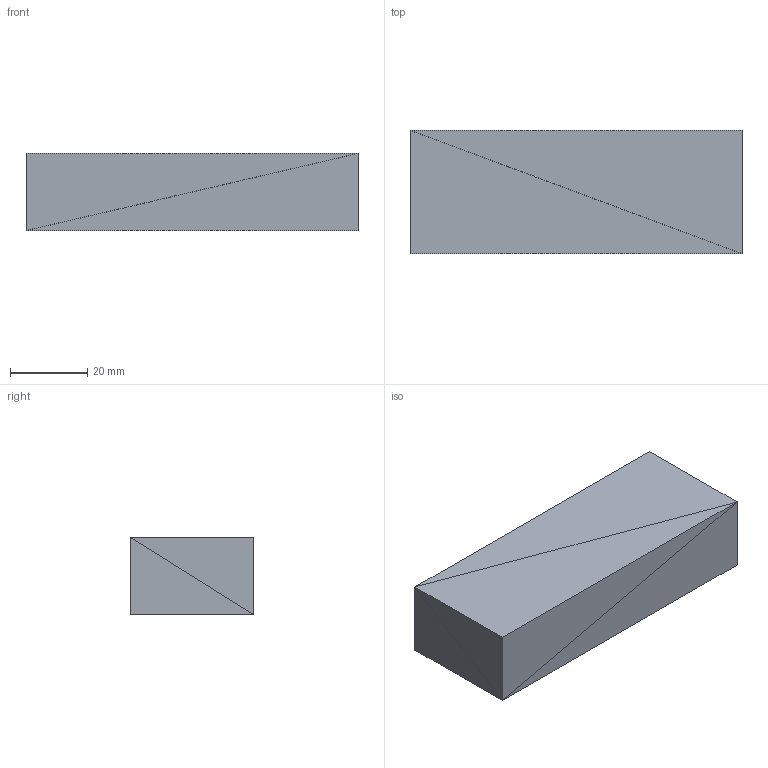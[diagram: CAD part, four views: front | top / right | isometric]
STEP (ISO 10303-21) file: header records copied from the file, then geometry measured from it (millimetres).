
FILE_DESCRIPTION(('Open CASCADE Model'),'2;1');
FILE_NAME('Open CASCADE Shape Model','2026-07-28T00:00:00+00:00',( 'Author'),('Open CASCADE'),'Open CASCADE STEP processor 7.8', 'build123d','Unknown');
FILE_SCHEMA(('AUTOMOTIVE_DESIGN { 1 0 10303 214 1 1 1 1 }'));
Length unit declared in the file: millimetre
Products named in the file (1): SOLID
Bounding box: 86 x 32 x 20 mm (x, y, z)
Volume: 55040 mm3; surface area: 10224 mm2
Topology: 1 solids, 1 shells, 12 faces, 18 edges, 8 vertices
Faces by surface type: plane 12
Entity records: 472 total; most frequent: CARTESIAN_POINT 93, DIRECTION 62, ORIENTED_EDGE 36, LINE 36, VECTOR 36, PCURVE 36, DEFINITIONAL_REPRESENTATION 36, EDGE_CURVE 18
